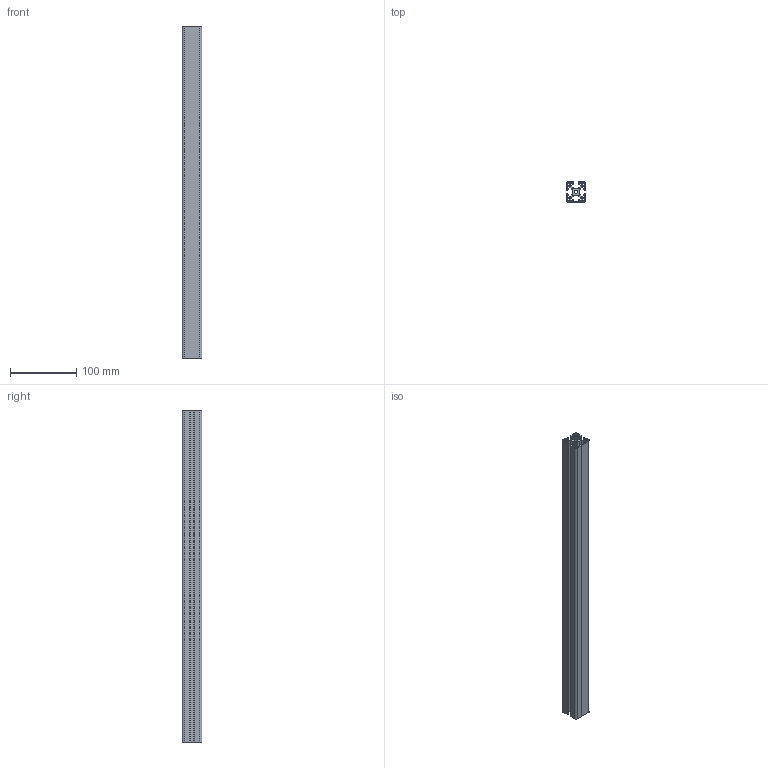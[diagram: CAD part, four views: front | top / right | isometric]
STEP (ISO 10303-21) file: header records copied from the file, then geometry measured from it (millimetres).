
FILE_DESCRIPTION (( 'STEP AP203' ), '1' );
FILE_NAME ('PP3110-500-Rollco.step', '2026-05-04T08:34:28', ( '' ), ( '' ), 'SwSTEP 2.0', 'SolidWorks 2014', '' );
FILE_SCHEMA (( 'CONFIG_CONTROL_DESIGN' ));
Length unit declared in the file: millimetre
Products named in the file (1): PP3110-500-Rollco
Bounding box: 30 x 30 x 500 mm (x, y, z)
Volume: 176748.8 mm3; surface area: 174732.8 mm2
Topology: 1 solids, 1 shells, 156 faces, 462 edges, 308 vertices
Faces by surface type: cylinder 78, plane 78
Entity records: 5359 total; most frequent: CARTESIAN_POINT 939, DIRECTION 924, ORIENTED_EDGE 924, EDGE_CURVE 462, AXIS2_PLACEMENT_3D 309, VERTEX_POINT 308, LINE 306, VECTOR 306
